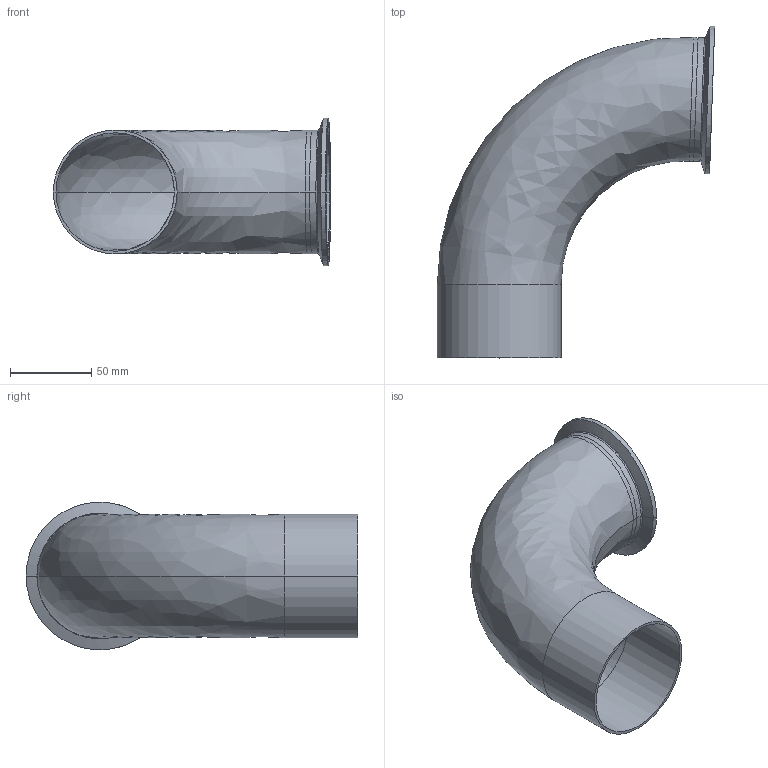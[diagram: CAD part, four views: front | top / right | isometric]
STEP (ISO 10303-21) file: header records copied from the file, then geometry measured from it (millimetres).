
FILE_DESCRIPTION (( 'STEP AP214' ), '1' );
FILE_NAME ('TE2C926L3.0-...STEP', '2016-05-22T11:07:44', ( 'eran' ), ( '' ), 'SwSTEP 2.0', 'SolidWorks 2016', '' );
FILE_SCHEMA (( 'AUTOMOTIVE_DESIGN' ));
Length unit declared in the file: millimetre
Products named in the file (1): TE2C926L3.0-..
Bounding box: 170.75 x 204.27 x 90.91 mm (x, y, z)
Volume: 100906.9 mm3; surface area: 118103.9 mm2
Topology: 2 solids, 2 shells, 39 faces, 92 edges, 58 vertices
Faces by surface type: bspline 14, cylinder 14, cone 6, plane 5
Entity records: 1817 total; most frequent: CARTESIAN_POINT 874, DIRECTION 204, ORIENTED_EDGE 184, AXIS2_PLACEMENT_3D 92, EDGE_CURVE 92, CIRCLE 66, VERTEX_POINT 58, EDGE_LOOP 44
